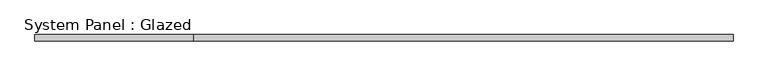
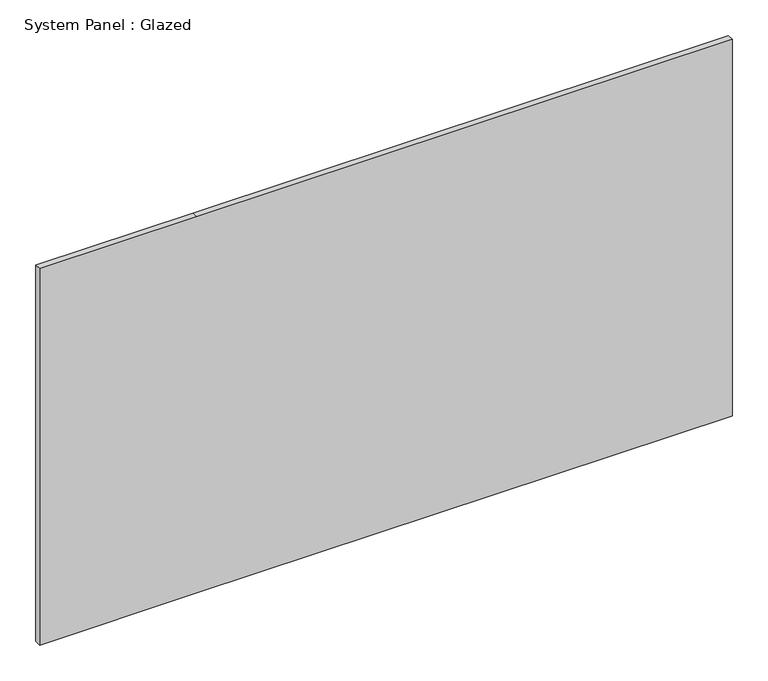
"""IFC4 building model written with IfcOpenShell, lengths in millimetres: plate geometry, System Panel : Glazed."""

from ifc_helpers import new_model, si_unit, frame, origin, place, context, project, spatial, polyline, outline, extrude, source, transform, mapped, element, save


def system_panel_glazed_0b7a980d(model_context):
    return source(origin(), model_context, "Body", "SweptSolid", [
        extrude(outline(polyline([(0.0, -556.5), (0.0, -303.5), (0.0, 556.5), (640.0, 556.5), (640.0, -303.5), (640.0, -556.5), (0.0, -556.5)])), frame((0.0, -5.0, 0.0), z_axis=(0.0, 1.0, 0.0), x_axis=(0.0, 0.0, 1.0)), (0.0, 0.0, 1.0), 10.0),
    ])


if __name__ == "__main__":
    model = new_model("IFC4")
    model_context = context("Model", 3, world=origin())
    ifc_project = project(units=[si_unit("LENGTHUNIT", "METRE", prefix="MILLI")], contexts=[model_context])
    site = spatial("IfcSite", under=ifc_project)
    building = spatial("IfcBuilding", under=site)
    placement = place(None, origin())
    system_panel_glazed_shape = system_panel_glazed_0b7a980d(model_context)
    element("IfcPlate", 1, ObjectType="System Panel : Glazed", at=placement, inside=building, context=model_context, shape_type="MappedRepresentation", body=[
        mapped(system_panel_glazed_shape, transform((0.0, 0.0, 0.0), x_axis=(1.0, 0.0, 0.0), y_axis=(0.0, 1.0, 0.0), z_axis=(0.0, 0.0, 1.0))),
    ])
    save(model, "model.ifc")
